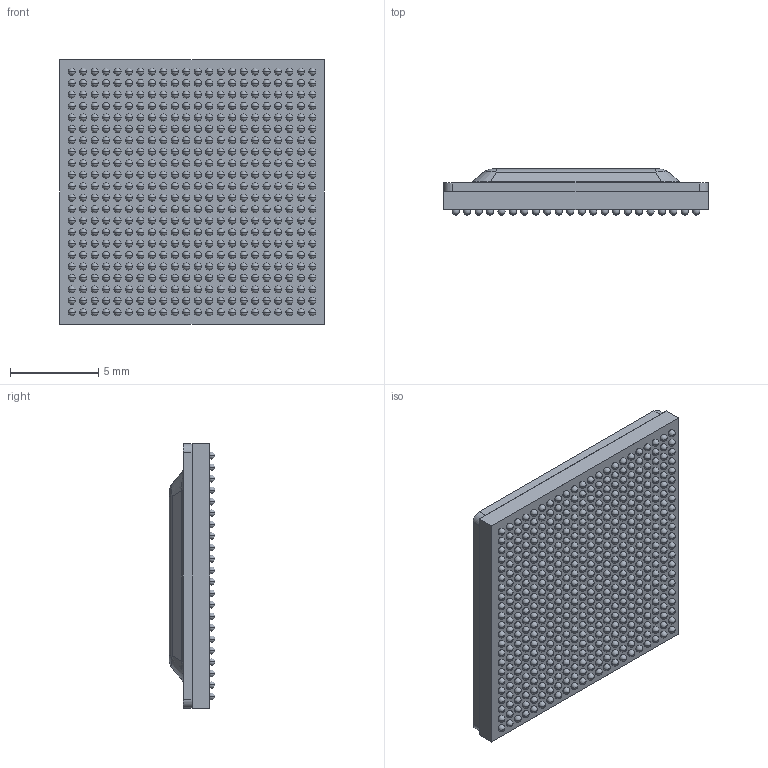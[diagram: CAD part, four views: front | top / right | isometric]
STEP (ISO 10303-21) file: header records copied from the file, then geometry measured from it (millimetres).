
FILE_DESCRIPTION((''),'2;1');
FILE_NAME('ABF0367A_ASM','2014-05-27T',('a0412025'),(''),'PRO/ENGINEER BY PARAMETRIC TECHNOLOGY CORPORATION, 2011490','PRO/ENGINEER BY PARAMETRIC TECHNOLOGY CORPORATION, 2011490','');
FILE_SCHEMA(('AUTOMOTIVE_DESIGN_CC2 { 1 2 10303 214 -1 1 5 2 }'));
Products named in the file (7): SUBSTRATE-FCBGA; BALL-LAYOUT-TOP; SOLDER_BALL; SMASK_BTM_FBGA; SMASK_TOP_FBGA; HEATSPREADER-FCBGA; ABF0367A_ASM
Assembly tree (489 placements, depth 2):
  ABF0367A_ASM
    SUBSTRATE-FCBGA
    BALL-LAYOUT-TOP
    SOLDER_BALL  x484
    SMASK_BTM_FBGA
    SMASK_TOP_FBGA
    HEATSPREADER-FCBGA
Bounding box: 15 x 2.6 x 15 mm (x, y, z)
Volume: 355.2 mm3; surface area: 2137.7 mm2
Topology: 488 solids, 488 shells, 1532 faces, 3082 edges, 1560 vertices
Faces by surface type: sphere 968, plane 518, bspline 24, cylinder 22
Entity records: 9521 total; most frequent: CARTESIAN_POINT 3664, DIRECTION 1308, AXIS2_PLACEMENT_3D 603, PRODUCT_DEFINITION_SHAPE 496, ITEM_DEFINED_TRANSFORMATION 489, CONTEXT_DEPENDENT_SHAPE_REPRESENTATION 489, NEXT_ASSEMBLY_USAGE_OCCURRENCE 489, ORIENTED_EDGE 364
